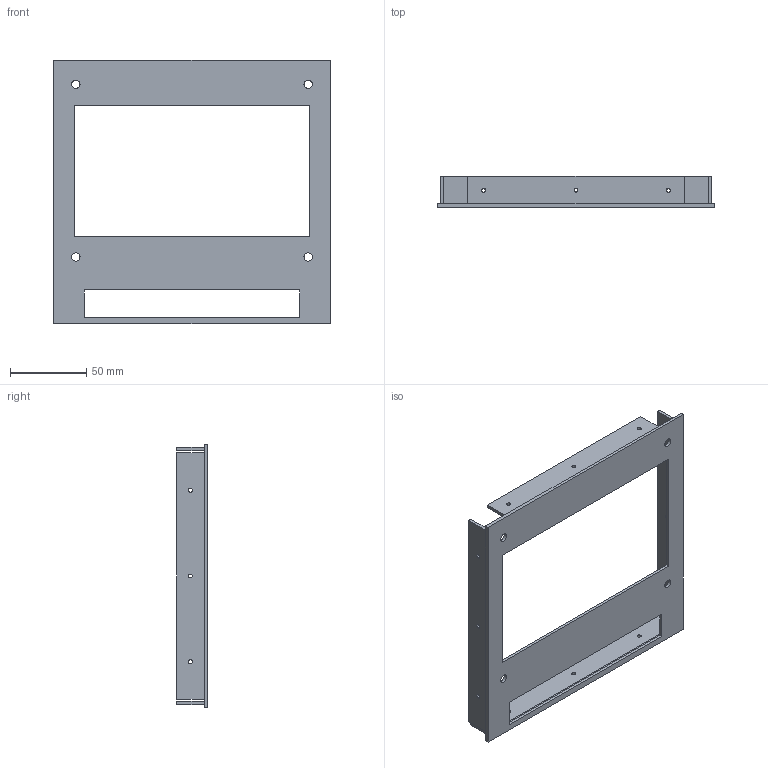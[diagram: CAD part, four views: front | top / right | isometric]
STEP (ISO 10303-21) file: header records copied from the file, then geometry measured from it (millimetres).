
FILE_DESCRIPTION(('FreeCAD Model'),'2;1');
FILE_NAME('Open CASCADE Shape Model','2026-06-08T10:03:13',('FreeCAD'),( 'FreeCAD'),'Open CASCADE STEP processor 7.8','FreeCAD','Unknown');
FILE_SCHEMA(('AUTOMOTIVE_DESIGN { 1 0 10303 214 1 1 1 1 }'));
Length unit declared in the file: millimetre
Products named in the file (1): Open CASCADE STEP translator 7.8 3
Bounding box: 180.9 x 20 x 172.27 mm (x, y, z)
Volume: 53407.4 mm3; surface area: 57039.7 mm2
Topology: 1 solids, 1 shells, 51 faces, 136 edges, 90 vertices
Faces by surface type: plane 35, cylinder 16
Full cylindrical faces by diameter (mm): 2.6 x12, 5.5 x4
Entity records: 1668 total; most frequent: CARTESIAN_POINT 278, DIRECTION 272, ORIENTED_EDGE 272, EDGE_CURVE 136, LINE 104, VECTOR 104, FACE_BOUND 90, EDGE_LOOP 90
